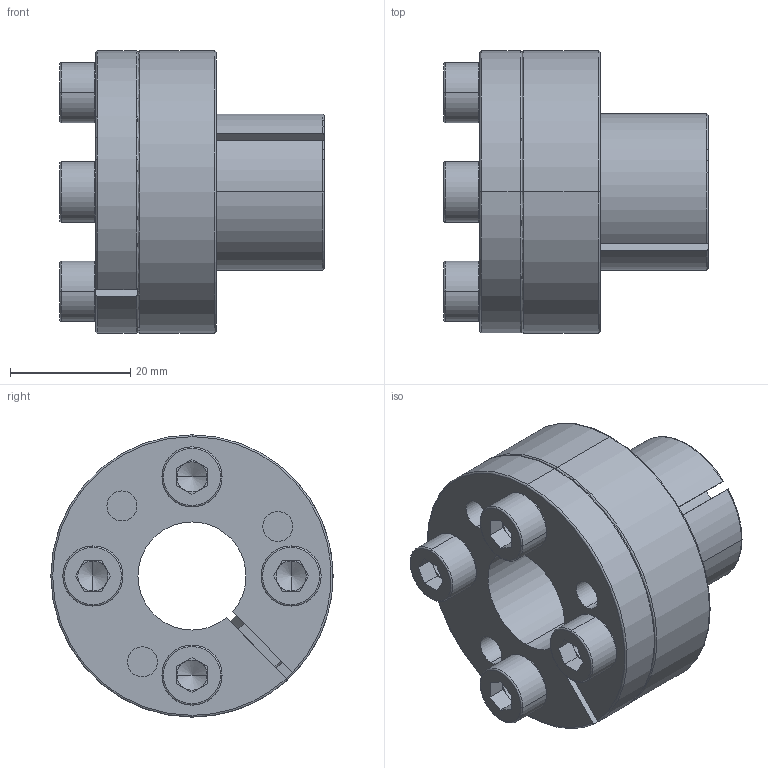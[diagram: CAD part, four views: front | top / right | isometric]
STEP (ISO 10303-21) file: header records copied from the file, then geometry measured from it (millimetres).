
FILE_DESCRIPTION (( 'STEP AP203' ), '1' );
FILE_NAME ('SAPL-T-18-26.STEP', '2017-01-13T09:04:51', ( '' ), ( '' ), 'SwSTEP 2.0', 'SolidWorks 2015', '' );
FILE_SCHEMA (( 'CONFIG_CONTROL_DESIGN' ));
Length unit declared in the file: millimetre
Products named in the file (1): SAPL-T-18-26
Bounding box: 44 x 47 x 47 mm (x, y, z)
Volume: 32440 mm3; surface area: 15043.9 mm2
Topology: 1 solids, 1 shells, 206 faces, 497 edges, 296 vertices
Faces by surface type: plane 72, cylinder 66, torus 46, cone 22
Entity records: 6131 total; most frequent: DIRECTION 1148, CARTESIAN_POINT 1088, ORIENTED_EDGE 978, EDGE_CURVE 489, AXIS2_PLACEMENT_3D 472, VERTEX_POINT 296, CIRCLE 265, EDGE_LOOP 237
